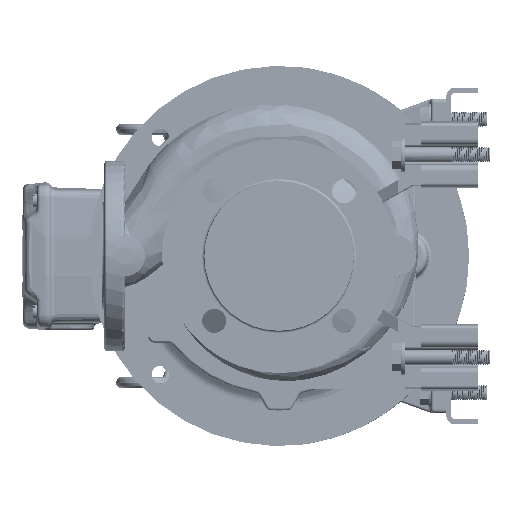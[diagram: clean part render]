
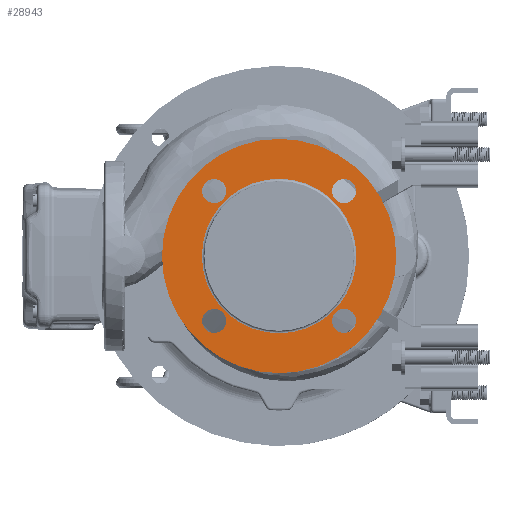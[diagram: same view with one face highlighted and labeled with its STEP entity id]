
A CAD part, left-side view. The second image highlights one B-rep face of the part: STEP entity #28943.
In plain terms, the highlighted planar face has unit normal (-1, 0, 0).
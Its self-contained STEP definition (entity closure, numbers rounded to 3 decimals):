
#599 = ORIENTED_EDGE ( 'NONE', *, *, #78739, .T. ) ;
#602 = AXIS2_PLACEMENT_3D ( 'NONE', #150181, #32247, #114812 ) ;
#1773 = DIRECTION ( 'NONE',  ( 0., -1., 0. ) ) ;
#4231 = DIRECTION ( 'NONE',  ( -1., 0., 0. ) ) ;
#8127 = CARTESIAN_POINT ( 'NONE',  ( -61.626, 202.575, 309.897 ) ) ;
#12103 = DIRECTION ( 'NONE',  ( -1., 0., 0. ) ) ;
#13817 = CARTESIAN_POINT ( 'NONE',  ( -61.626, 160.81, 258.631 ) ) ;
#14653 = EDGE_CURVE ( 'NONE', #82096, #105691, #21977, .T. ) ;
#14728 = AXIS2_PLACEMENT_3D ( 'NONE', #103050, #23859, #153874 ) ;
#15424 = DIRECTION ( 'NONE',  ( 0., 0., -1. ) ) ;
#15971 = EDGE_CURVE ( 'NONE', #86613, #56155, #145974, .T. ) ;
#19030 = FACE_BOUND ( 'NONE', #145364, .T. ) ;
#20105 = EDGE_CURVE ( 'NONE', #87217, #48846, #68213, .T. ) ;
#20691 = FACE_BOUND ( 'NONE', #43156, .T. ) ;
#21977 = CIRCLE ( 'NONE', #68696, 61. ) ;
#22387 = CARTESIAN_POINT ( 'NONE',  ( -61.626, 221.81, 258.631 ) ) ;
#22891 = CARTESIAN_POINT ( 'NONE',  ( -61.626, 160.81, 258.631 ) ) ;
#23859 = DIRECTION ( 'NONE',  ( -1., 0., 0. ) ) ;
#27604 = DIRECTION ( 'NONE',  ( -1., 0., 0. ) ) ;
#28943 = ADVANCED_FACE ( 'NONE', ( #163597, #19030, #139474, #124024, #20691, #61959 ), #111945, .F. ) ;
#32247 = DIRECTION ( 'NONE',  ( -1., 0., 0. ) ) ;
#32486 = CARTESIAN_POINT ( 'NONE',  ( -61.626, 109.545, 207.366 ) ) ;
#32546 = CIRCLE ( 'NONE', #128749, 9.5 ) ;
#32764 = DIRECTION ( 'NONE',  ( 0., 1., 0. ) ) ;
#33216 = EDGE_CURVE ( 'NONE', #67053, #91727, #74789, .T. ) ;
#33281 = DIRECTION ( 'NONE',  ( -1., 0., 0. ) ) ;
#33346 = CARTESIAN_POINT ( 'NONE',  ( -61.626, 202.575, 207.366 ) ) ;
#34904 = ORIENTED_EDGE ( 'NONE', *, *, #15971, .F. ) ;
#34994 = DIRECTION ( 'NONE',  ( 0., 1., 0. ) ) ;
#35510 = ORIENTED_EDGE ( 'NONE', *, *, #119944, .F. ) ;
#36107 = CARTESIAN_POINT ( 'NONE',  ( -61.626, 109.545, 207.366 ) ) ;
#38222 = ORIENTED_EDGE ( 'NONE', *, *, #107006, .F. ) ;
#40521 = EDGE_LOOP ( 'NONE', ( #89344, #124974 ) ) ;
#41448 = CARTESIAN_POINT ( 'NONE',  ( -61.626, 221.81, 258.631 ) ) ;
#43156 = EDGE_LOOP ( 'NONE', ( #38222, #124123 ) ) ;
#45333 = CARTESIAN_POINT ( 'NONE',  ( -61.626, 100.045, 207.366 ) ) ;
#48846 = VERTEX_POINT ( 'NONE', #148087 ) ;
#50771 = CARTESIAN_POINT ( 'NONE',  ( -61.626, 221.575, 207.366 ) ) ;
#51760 = CARTESIAN_POINT ( 'NONE',  ( -61.626, 100.045, 309.897 ) ) ;
#52362 = CIRCLE ( 'NONE', #55065, 9.5 ) ;
#52484 = EDGE_CURVE ( 'NONE', #48846, #87217, #94089, .T. ) ;
#55065 = AXIS2_PLACEMENT_3D ( 'NONE', #32486, #152933, #34994 ) ;
#56155 = VERTEX_POINT ( 'NONE', #110954 ) ;
#58265 = AXIS2_PLACEMENT_3D ( 'NONE', #131388, #156367, #78854 ) ;
#61042 = EDGE_LOOP ( 'NONE', ( #34904, #158086 ) ) ;
#61082 = CIRCLE ( 'NONE', #105089, 9.5 ) ;
#61423 = CARTESIAN_POINT ( 'NONE',  ( -61.626, 212.075, 309.897 ) ) ;
#61959 = FACE_OUTER_BOUND ( 'NONE', #99064, .T. ) ;
#63793 = CIRCLE ( 'NONE', #58265, 92.5 ) ;
#67053 = VERTEX_POINT ( 'NONE', #152992 ) ;
#67898 = DIRECTION ( 'NONE',  ( 0., 1., 0. ) ) ;
#68213 = CIRCLE ( 'NONE', #123254, 9.5 ) ;
#68696 = AXIS2_PLACEMENT_3D ( 'NONE', #13817, #119660, #1773 ) ;
#69246 = EDGE_CURVE ( 'NONE', #56155, #86613, #93387, .T. ) ;
#69950 = EDGE_CURVE ( 'NONE', #141170, #81375, #52362, .T. ) ;
#74052 = DIRECTION ( 'NONE',  ( 1., 0., 0. ) ) ;
#74789 = CIRCLE ( 'NONE', #602, 92.5 ) ;
#76963 = CARTESIAN_POINT ( 'NONE',  ( -61.626, 253.31, 258.631 ) ) ;
#77133 = AXIS2_PLACEMENT_3D ( 'NONE', #61423, #101040, #87269 ) ;
#78739 = EDGE_CURVE ( 'NONE', #91727, #67053, #63793, .T. ) ;
#78854 = DIRECTION ( 'NONE',  ( 0., -1., 0. ) ) ;
#81375 = VERTEX_POINT ( 'NONE', #112765 ) ;
#82096 = VERTEX_POINT ( 'NONE', #41448 ) ;
#86613 = VERTEX_POINT ( 'NONE', #8127 ) ;
#87217 = VERTEX_POINT ( 'NONE', #51760 ) ;
#87269 = DIRECTION ( 'NONE',  ( 0., -1., 0. ) ) ;
#88891 = CIRCLE ( 'NONE', #14728, 9.5 ) ;
#89344 = ORIENTED_EDGE ( 'NONE', *, *, #20105, .F. ) ;
#89829 = EDGE_CURVE ( 'NONE', #108617, #121041, #32546, .T. ) ;
#91727 = VERTEX_POINT ( 'NONE', #76963 ) ;
#93135 = ORIENTED_EDGE ( 'NONE', *, *, #33216, .T. ) ;
#93387 = CIRCLE ( 'NONE', #131870, 9.5 ) ;
#94089 = CIRCLE ( 'NONE', #138088, 9.5 ) ;
#97855 = DIRECTION ( 'NONE',  ( 0., -1., 0. ) ) ;
#98709 = ORIENTED_EDGE ( 'NONE', *, *, #89829, .F. ) ;
#99064 = EDGE_LOOP ( 'NONE', ( #93135, #599 ) ) ;
#100842 = ORIENTED_EDGE ( 'NONE', *, *, #124042, .F. ) ;
#101040 = DIRECTION ( 'NONE',  ( -1., 0., 0. ) ) ;
#102777 = DIRECTION ( 'NONE',  ( 0., 0., -1. ) ) ;
#103050 = CARTESIAN_POINT ( 'NONE',  ( -61.626, 212.075, 207.366 ) ) ;
#103172 = AXIS2_PLACEMENT_3D ( 'NONE', #22891, #33281, #97855 ) ;
#104211 = DIRECTION ( 'NONE',  ( 0., 0., 1. ) ) ;
#105089 = AXIS2_PLACEMENT_3D ( 'NONE', #36107, #131648, #67898 ) ;
#105691 = VERTEX_POINT ( 'NONE', #116867 ) ;
#107006 = EDGE_CURVE ( 'NONE', #105691, #82096, #166319, .T. ) ;
#108617 = VERTEX_POINT ( 'NONE', #50771 ) ;
#110954 = CARTESIAN_POINT ( 'NONE',  ( -61.626, 221.575, 309.897 ) ) ;
#111945 = PLANE ( 'NONE',  #166080 ) ;
#112765 = CARTESIAN_POINT ( 'NONE',  ( -61.626, 119.045, 207.366 ) ) ;
#114812 = DIRECTION ( 'NONE',  ( 0., -1., 0. ) ) ;
#114843 = DIRECTION ( 'NONE',  ( -1., 0., 0. ) ) ;
#116867 = CARTESIAN_POINT ( 'NONE',  ( -61.626, 99.81, 258.631 ) ) ;
#118267 = CARTESIAN_POINT ( 'NONE',  ( -61.626, 109.545, 309.897 ) ) ;
#119660 = DIRECTION ( 'NONE',  ( -1., 0., 0. ) ) ;
#119702 = DIRECTION ( 'NONE',  ( 0., -1., 0. ) ) ;
#119944 = EDGE_CURVE ( 'NONE', #81375, #141170, #61082, .T. ) ;
#121041 = VERTEX_POINT ( 'NONE', #33346 ) ;
#123254 = AXIS2_PLACEMENT_3D ( 'NONE', #133351, #4231, #15424 ) ;
#124024 = FACE_BOUND ( 'NONE', #61042, .T. ) ;
#124042 = EDGE_CURVE ( 'NONE', #121041, #108617, #88891, .T. ) ;
#124123 = ORIENTED_EDGE ( 'NONE', *, *, #14653, .F. ) ;
#124974 = ORIENTED_EDGE ( 'NONE', *, *, #52484, .F. ) ;
#128749 = AXIS2_PLACEMENT_3D ( 'NONE', #130877, #12103, #104211 ) ;
#130877 = CARTESIAN_POINT ( 'NONE',  ( -61.626, 212.075, 207.366 ) ) ;
#131388 = CARTESIAN_POINT ( 'NONE',  ( -61.626, 160.81, 258.631 ) ) ;
#131648 = DIRECTION ( 'NONE',  ( -1., 0., 0. ) ) ;
#131870 = AXIS2_PLACEMENT_3D ( 'NONE', #142131, #27604, #119702 ) ;
#133351 = CARTESIAN_POINT ( 'NONE',  ( -61.626, 109.545, 309.897 ) ) ;
#138088 = AXIS2_PLACEMENT_3D ( 'NONE', #118267, #114843, #102777 ) ;
#139474 = FACE_BOUND ( 'NONE', #167442, .T. ) ;
#141170 = VERTEX_POINT ( 'NONE', #45333 ) ;
#142131 = CARTESIAN_POINT ( 'NONE',  ( -61.626, 212.075, 309.897 ) ) ;
#145364 = EDGE_LOOP ( 'NONE', ( #158647, #35510 ) ) ;
#145974 = CIRCLE ( 'NONE', #77133, 9.5 ) ;
#148087 = CARTESIAN_POINT ( 'NONE',  ( -61.626, 119.045, 309.897 ) ) ;
#150181 = CARTESIAN_POINT ( 'NONE',  ( -61.626, 160.81, 258.631 ) ) ;
#152933 = DIRECTION ( 'NONE',  ( -1., 0., 0. ) ) ;
#152992 = CARTESIAN_POINT ( 'NONE',  ( -61.626, 68.31, 258.631 ) ) ;
#153874 = DIRECTION ( 'NONE',  ( 0., 0., 1. ) ) ;
#156367 = DIRECTION ( 'NONE',  ( -1., 0., 0. ) ) ;
#158086 = ORIENTED_EDGE ( 'NONE', *, *, #69246, .F. ) ;
#158647 = ORIENTED_EDGE ( 'NONE', *, *, #69950, .F. ) ;
#163597 = FACE_BOUND ( 'NONE', #40521, .T. ) ;
#166080 = AXIS2_PLACEMENT_3D ( 'NONE', #22387, #74052, #32764 ) ;
#166319 = CIRCLE ( 'NONE', #103172, 61. ) ;
#167442 = EDGE_LOOP ( 'NONE', ( #100842, #98709 ) ) ;
